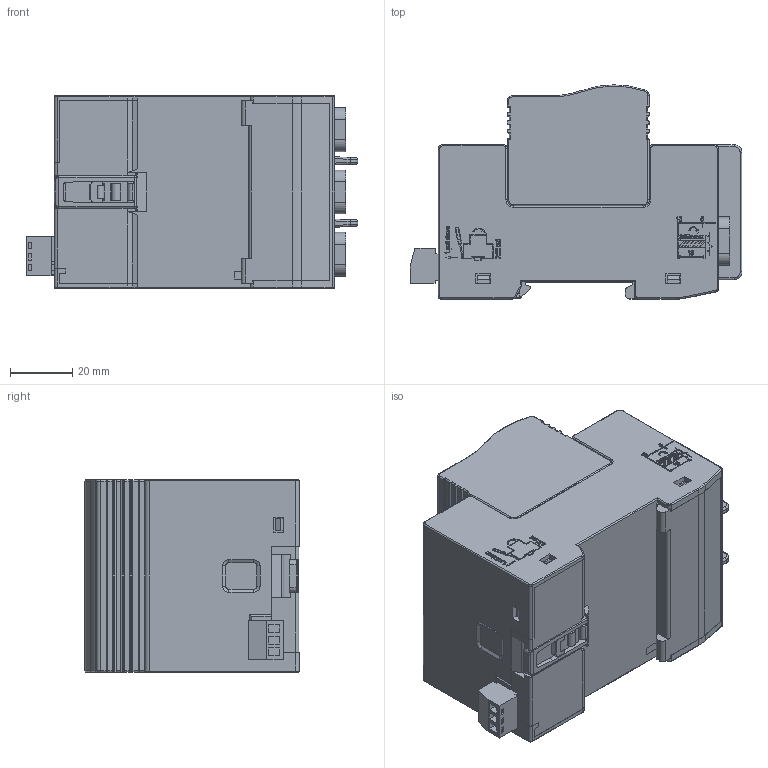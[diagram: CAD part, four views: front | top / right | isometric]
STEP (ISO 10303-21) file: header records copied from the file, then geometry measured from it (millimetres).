
FILE_DESCRIPTION(/* description */ (''),/* implementation_level */ '2;1');
FILE_NAME(/* name */ '3PPV-STP2025',/* time_stamp */ '2025-11-12T11:15:19+08:00',/* author */ (''),/* organization */ (''),/* preprocessor_version */ 'ST-DEVELOPER v9',/* originating_system */ 'EDS PLM SOLUTIONS - UNIGRAPHICS NX 2.0',/* authorisation */ '');
FILE_SCHEMA (('AUTOMOTIVE_DESIGN { 1 0 10303 214 0 1 1 1 }'));
Products named in the file (1): Admi3BBBlf6s
Bounding box: 106.5 x 68.7 x 61.9 mm (x, y, z)
Volume: 288657.5 mm3; surface area: 69472.9 mm2
Topology: 9 solids, 34 shells, 2356 faces, 6354 edges, 4164 vertices
Faces by surface type: plane 1650, cylinder 466, extrusion 99, torus 63, cone 47, bspline 17, sphere 14
Full cylindrical faces by diameter (mm): 2.7 x3, 4.916 x4, 4.917 x4, 6 x8, 7.4 x4, 10.8 x4, 11.8 x4, 13 x3
Entity records: 76123 total; most frequent: CARTESIAN_POINT 17126, ORIENTED_EDGE 12526, DIRECTION 11567, EDGE_CURVE 6263, VECTOR 4715, LINE 4616, VERTEX_POINT 4142, AXIS2_PLACEMENT_3D 3426
